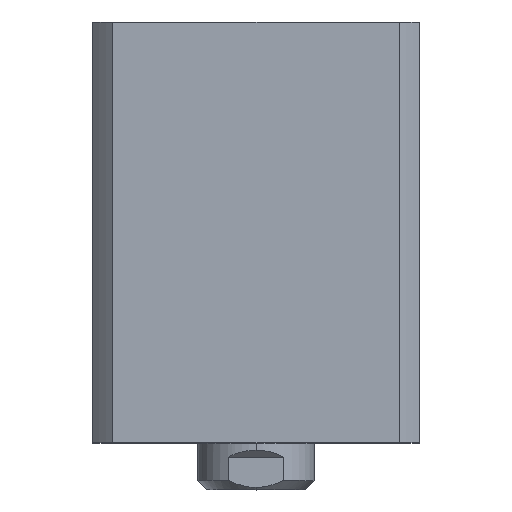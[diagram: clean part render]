
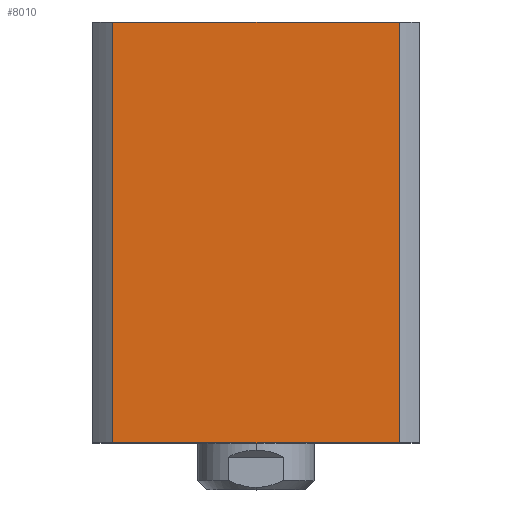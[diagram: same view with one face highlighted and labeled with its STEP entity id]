
A CAD part, top view. The second image highlights one B-rep face of the part: STEP entity #8010.
In plain terms, the highlighted planar face has unit normal (0, 0, 1) as drawn and (1, 0, 0) by its records, which use the part's own axes.
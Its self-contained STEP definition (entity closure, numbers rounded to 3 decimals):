
#240 = DIRECTION ( 'NONE',  ( -1., 0., 0. ) ) ;
#300 = VERTEX_POINT ( 'NONE', #2369 ) ;
#398 = LINE ( 'NONE', #1420, #6403 ) ;
#555 = ORIENTED_EDGE ( 'NONE', *, *, #9305, .F. ) ;
#906 = VERTEX_POINT ( 'NONE', #2420 ) ;
#1170 = ORIENTED_EDGE ( 'NONE', *, *, #8605, .F. ) ;
#1197 = EDGE_LOOP ( 'NONE', ( #555, #1170, #1664, #2495 ) ) ;
#1420 = CARTESIAN_POINT ( 'NONE',  ( 35., 35., 90. ) ) ;
#1612 = VECTOR ( 'NONE', #9357, 1000. ) ;
#1664 = ORIENTED_EDGE ( 'NONE', *, *, #1804, .F. ) ;
#1804 = EDGE_CURVE ( 'NONE', #2841, #906, #2853, .T. ) ;
#2113 = DIRECTION ( 'NONE',  ( 0., 0., -1. ) ) ;
#2369 = CARTESIAN_POINT ( 'NONE',  ( 35., 30.615, 0. ) ) ;
#2420 = CARTESIAN_POINT ( 'NONE',  ( 35., -30.615, 90. ) ) ;
#2495 = ORIENTED_EDGE ( 'NONE', *, *, #3185, .T. ) ;
#2607 = VECTOR ( 'NONE', #9649, 1000. ) ;
#2810 = CARTESIAN_POINT ( 'NONE',  ( 35., 30.615, 90. ) ) ;
#2841 = VERTEX_POINT ( 'NONE', #8106 ) ;
#2853 = LINE ( 'NONE', #9685, #2607 ) ;
#3185 = EDGE_CURVE ( 'NONE', #2841, #300, #9406, .T. ) ;
#3951 = VECTOR ( 'NONE', #2113, 1000. ) ;
#3952 = CARTESIAN_POINT ( 'NONE',  ( 35., 35., 0. ) ) ;
#4452 = FACE_OUTER_BOUND ( 'NONE', #1197, .T. ) ;
#4932 = PLANE ( 'NONE',  #8324 ) ;
#5718 = DIRECTION ( 'NONE',  ( 0., 0., 1. ) ) ;
#6033 = LINE ( 'NONE', #6806, #3951 ) ;
#6403 = VECTOR ( 'NONE', #8408, 1000. ) ;
#6806 = CARTESIAN_POINT ( 'NONE',  ( 35., 30.615, 300. ) ) ;
#7989 = CARTESIAN_POINT ( 'NONE',  ( 35., 35., 90. ) ) ;
#8010 = ADVANCED_FACE ( 'NONE', ( #4452 ), #4932, .F. ) ;
#8106 = CARTESIAN_POINT ( 'NONE',  ( 35., -30.615, 0. ) ) ;
#8324 = AXIS2_PLACEMENT_3D ( 'NONE', #7989, #240, #5718 ) ;
#8408 = DIRECTION ( 'NONE',  ( 0., 1., 0. ) ) ;
#8605 = EDGE_CURVE ( 'NONE', #906, #9384, #398, .T. ) ;
#9305 = EDGE_CURVE ( 'NONE', #9384, #300, #6033, .T. ) ;
#9357 = DIRECTION ( 'NONE',  ( 0., 1., 0. ) ) ;
#9384 = VERTEX_POINT ( 'NONE', #2810 ) ;
#9406 = LINE ( 'NONE', #3952, #1612 ) ;
#9649 = DIRECTION ( 'NONE',  ( 0., 0., 1. ) ) ;
#9685 = CARTESIAN_POINT ( 'NONE',  ( 35., -30.615, 300. ) ) ;
